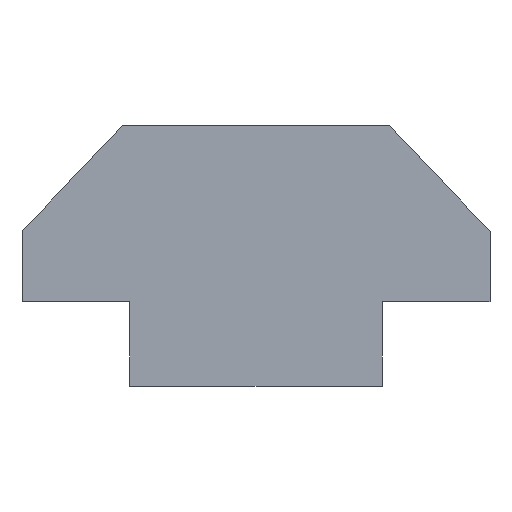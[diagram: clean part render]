
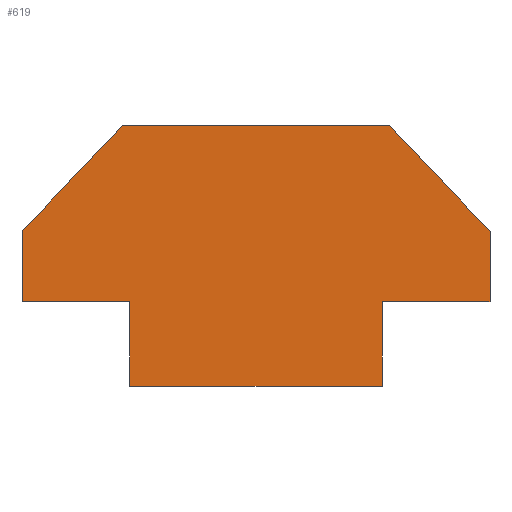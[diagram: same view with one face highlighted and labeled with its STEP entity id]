
A CAD part, front view. The second image highlights one B-rep face of the part: STEP entity #619.
In plain terms, the highlighted planar face has unit normal (0, -1, 0).
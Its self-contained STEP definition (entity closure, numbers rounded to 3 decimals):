
#84 = CARTESIAN_POINT ( 'NONE',  ( -16.748, 0., 3.349 ) ) ;
#85 = ORIENTED_EDGE ( 'NONE', *, *, #2463, .F. ) ;
#93 = ORIENTED_EDGE ( 'NONE', *, *, #3795, .F. ) ;
#124 = VECTOR ( 'NONE', #2932, 1000. ) ;
#137 = VECTOR ( 'NONE', #1691, 1000. ) ;
#142 = VECTOR ( 'NONE', #1883, 1000. ) ;
#189 = VERTEX_POINT ( 'NONE', #1083 ) ;
#325 = ORIENTED_EDGE ( 'NONE', *, *, #3316, .F. ) ;
#326 = ORIENTED_EDGE ( 'NONE', *, *, #1709, .F. ) ;
#346 = ORIENTED_EDGE ( 'NONE', *, *, #1739, .F. ) ;
#364 = LINE ( 'NONE', #3566, #3441 ) ;
#369 = ORIENTED_EDGE ( 'NONE', *, *, #2704, .F. ) ;
#457 = CARTESIAN_POINT ( 'NONE',  ( -14.265, 0., 3.349 ) ) ;
#484 = ORIENTED_EDGE ( 'NONE', *, *, #1106, .F. ) ;
#489 = DIRECTION ( 'NONE',  ( 0., 1., 0. ) ) ;
#527 = FACE_OUTER_BOUND ( 'NONE', #1495, .T. ) ;
#619 = ADVANCED_FACE ( 'NONE', ( #527 ), #3111, .F. ) ;
#791 = CARTESIAN_POINT ( 'NONE',  ( -16.748, 0., 4.969 ) ) ;
#815 = VERTEX_POINT ( 'NONE', #1918 ) ;
#839 = CARTESIAN_POINT ( 'NONE',  ( -5.985, 0., 4.969 ) ) ;
#861 = VECTOR ( 'NONE', #1783, 1000. ) ;
#883 = LINE ( 'NONE', #3269, #861 ) ;
#912 = VECTOR ( 'NONE', #2183, 1000. ) ;
#1006 = CARTESIAN_POINT ( 'NONE',  ( -5.985, 0., 4.969 ) ) ;
#1011 = CARTESIAN_POINT ( 'NONE',  ( -16.748, 0., 4.969 ) ) ;
#1016 = CARTESIAN_POINT ( 'NONE',  ( -8.468, 0., 3.349 ) ) ;
#1029 = DIRECTION ( 'NONE',  ( -1., 0., 0. ) ) ;
#1031 = VERTEX_POINT ( 'NONE', #1277 ) ;
#1048 = DIRECTION ( 'NONE',  ( 0.691, 0., 0.723 ) ) ;
#1083 = CARTESIAN_POINT ( 'NONE',  ( -14.265, 0., 1.401 ) ) ;
#1106 = EDGE_CURVE ( 'NONE', #3088, #1579, #1314, .T. ) ;
#1166 = VECTOR ( 'NONE', #1048, 1000. ) ;
#1277 = CARTESIAN_POINT ( 'NONE',  ( -8.468, 0., 1.401 ) ) ;
#1314 = LINE ( 'NONE', #1006, #3638 ) ;
#1434 = LINE ( 'NONE', #2879, #124 ) ;
#1495 = EDGE_LOOP ( 'NONE', ( #1794, #3139, #85, #346, #93, #1538, #325, #484, #369, #326 ) ) ;
#1538 = ORIENTED_EDGE ( 'NONE', *, *, #2938, .F. ) ;
#1574 = LINE ( 'NONE', #3347, #142 ) ;
#1579 = VERTEX_POINT ( 'NONE', #839 ) ;
#1679 = CARTESIAN_POINT ( 'NONE',  ( 0., 0., 0. ) ) ;
#1690 = CARTESIAN_POINT ( 'NONE',  ( -14.265, 0., 3.349 ) ) ;
#1691 = DIRECTION ( 'NONE',  ( 0., 0., 1. ) ) ;
#1709 = EDGE_CURVE ( 'NONE', #3089, #1770, #1853, .T. ) ;
#1739 = EDGE_CURVE ( 'NONE', #1031, #189, #2794, .T. ) ;
#1770 = VERTEX_POINT ( 'NONE', #1929 ) ;
#1783 = DIRECTION ( 'NONE',  ( 1., 0., 0. ) ) ;
#1794 = ORIENTED_EDGE ( 'NONE', *, *, #2023, .F. ) ;
#1853 = LINE ( 'NONE', #1011, #1166 ) ;
#1883 = DIRECTION ( 'NONE',  ( -1., 0., 0. ) ) ;
#1917 = LINE ( 'NONE', #1016, #912 ) ;
#1918 = CARTESIAN_POINT ( 'NONE',  ( -8.468, 0., 3.349 ) ) ;
#1929 = CARTESIAN_POINT ( 'NONE',  ( -14.431, 0., 7.392 ) ) ;
#1998 = DIRECTION ( 'NONE',  ( 0., 0., 1. ) ) ;
#2023 = EDGE_CURVE ( 'NONE', #2735, #3089, #3175, .T. ) ;
#2183 = DIRECTION ( 'NONE',  ( 0., 0., -1. ) ) ;
#2188 = EDGE_CURVE ( 'NONE', #3158, #2735, #364, .T. ) ;
#2214 = VECTOR ( 'NONE', #1029, 1000. ) ;
#2463 = EDGE_CURVE ( 'NONE', #189, #3158, #3782, .T. ) ;
#2704 = EDGE_CURVE ( 'NONE', #1770, #3088, #883, .T. ) ;
#2735 = VERTEX_POINT ( 'NONE', #84 ) ;
#2763 = CARTESIAN_POINT ( 'NONE',  ( -5.985, 0., 3.349 ) ) ;
#2775 = CARTESIAN_POINT ( 'NONE',  ( -14.265, 0., 1.401 ) ) ;
#2789 = DIRECTION ( 'NONE',  ( 0.691, 0., -0.723 ) ) ;
#2794 = LINE ( 'NONE', #2775, #2214 ) ;
#2820 = CARTESIAN_POINT ( 'NONE',  ( -8.301, 0., 7.392 ) ) ;
#2879 = CARTESIAN_POINT ( 'NONE',  ( -5.985, 0., 3.349 ) ) ;
#2932 = DIRECTION ( 'NONE',  ( 0., 0., -1. ) ) ;
#2938 = EDGE_CURVE ( 'NONE', #2959, #815, #1574, .T. ) ;
#2959 = VERTEX_POINT ( 'NONE', #2763 ) ;
#3026 = DIRECTION ( 'NONE',  ( -1., 0., 0. ) ) ;
#3088 = VERTEX_POINT ( 'NONE', #2820 ) ;
#3089 = VERTEX_POINT ( 'NONE', #791 ) ;
#3111 = PLANE ( 'NONE',  #3384 ) ;
#3136 = VECTOR ( 'NONE', #1998, 1000. ) ;
#3139 = ORIENTED_EDGE ( 'NONE', *, *, #2188, .F. ) ;
#3158 = VERTEX_POINT ( 'NONE', #457 ) ;
#3175 = LINE ( 'NONE', #3741, #137 ) ;
#3269 = CARTESIAN_POINT ( 'NONE',  ( -14.431, 0., 7.392 ) ) ;
#3316 = EDGE_CURVE ( 'NONE', #1579, #2959, #1434, .T. ) ;
#3347 = CARTESIAN_POINT ( 'NONE',  ( -5.985, 0., 3.349 ) ) ;
#3384 = AXIS2_PLACEMENT_3D ( 'NONE', #1679, #489, #3434 ) ;
#3434 = DIRECTION ( 'NONE',  ( 0., 0., 1. ) ) ;
#3441 = VECTOR ( 'NONE', #3026, 1000. ) ;
#3566 = CARTESIAN_POINT ( 'NONE',  ( -16.748, 0., 3.349 ) ) ;
#3638 = VECTOR ( 'NONE', #2789, 1000. ) ;
#3741 = CARTESIAN_POINT ( 'NONE',  ( -16.748, 0., 3.349 ) ) ;
#3782 = LINE ( 'NONE', #1690, #3136 ) ;
#3795 = EDGE_CURVE ( 'NONE', #815, #1031, #1917, .T. ) ;
